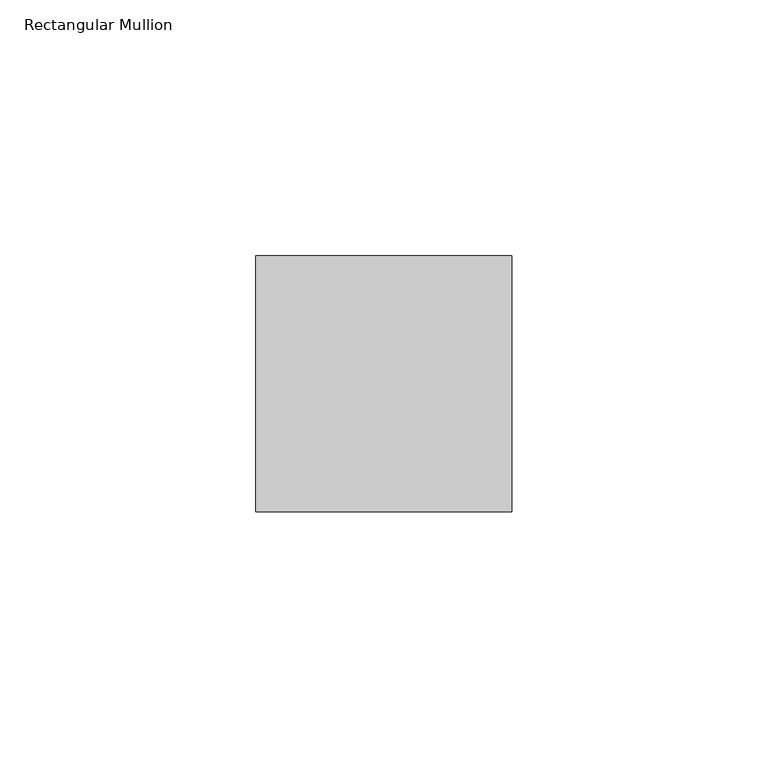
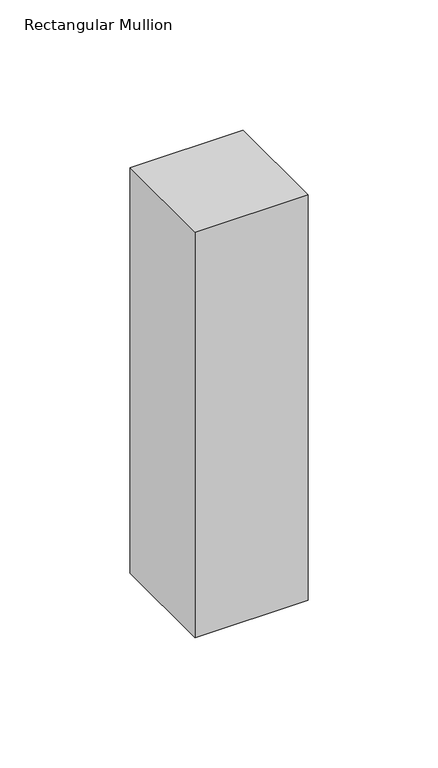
"""IFC4 building model written with IfcOpenShell, lengths in millimetres: member geometry, Rectangular Mullion : RSen_21_CWM_support profile 50x50_gen_duco projects."""

from ifc_helpers import new_model, si_unit, frame, origin, place, context, project, spatial, polyline, outline, extrude, source, transform, mapped, element, save


def rectangular_mullion_3201b9fb(model_context):
    return source(origin(), model_context, "Body", "SweptSolid", [
        extrude(outline(polyline([(25.0, 1.0), (25.0, -49.0), (-25.0, -49.0), (-25.0, 1.0), (25.0, 1.0)])), frame((0.0, 0.0, -190.0), z_axis=(0.0, 0.0, 1.0), x_axis=(1.0, 0.0, 0.0)), (0.0, 0.0, 1.0), 190.0),
    ])


if __name__ == "__main__":
    model = new_model("IFC4")
    model_context = context("Model", 3, world=origin())
    ifc_project = project(units=[si_unit("LENGTHUNIT", "METRE", prefix="MILLI")], contexts=[model_context])
    site = spatial("IfcSite", under=ifc_project)
    building = spatial("IfcBuilding", under=site)
    placement = place(None, origin())
    rectangular_mullion_shape = rectangular_mullion_3201b9fb(model_context)
    element("IfcMember", 1, ObjectType="Rectangular Mullion : RSen_21_CWM_support profile 50x50_gen_duco projects", at=placement, inside=building, context=model_context, shape_type="MappedRepresentation", body=[
        mapped(rectangular_mullion_shape, transform((0.0, 0.0, 0.0), x_axis=(1.0, 0.0, 0.0), y_axis=(0.0, 1.0, 0.0), z_axis=(0.0, 0.0, 1.0))),
    ])
    save(model, "model.ifc")
